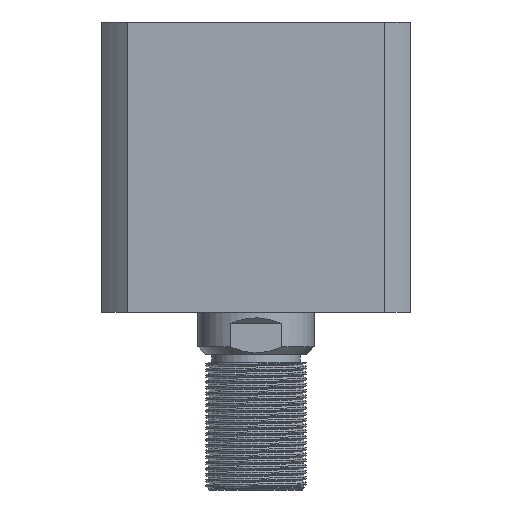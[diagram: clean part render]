
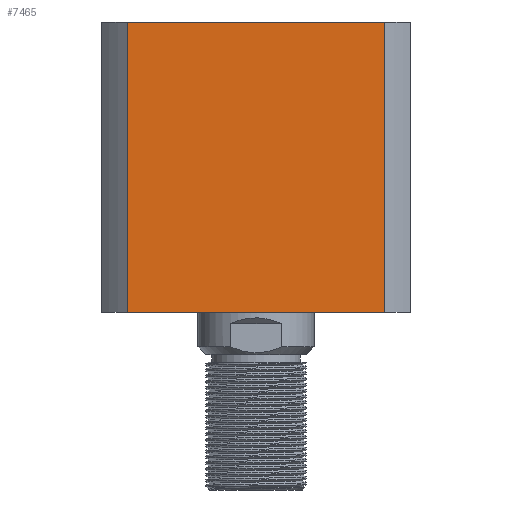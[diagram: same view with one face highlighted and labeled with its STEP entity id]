
A CAD part, left-side view. The second image highlights one B-rep face of the part: STEP entity #7465.
In plain terms, the highlighted planar face has unit normal (-1, 0, 0).
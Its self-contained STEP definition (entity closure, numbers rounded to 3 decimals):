
#743 = DIRECTION ( 'NONE',  ( 0., 0., -1. ) ) ;
#938 = CARTESIAN_POINT ( 'NONE',  ( -40., 33.226, -37.5 ) ) ;
#1242 = VERTEX_POINT ( 'NONE', #12098 ) ;
#1345 = VECTOR ( 'NONE', #11682, 1000. ) ;
#1518 = EDGE_LOOP ( 'NONE', ( #8845, #13874, #2862, #4040 ) ) ;
#1783 = DIRECTION ( 'NONE',  ( 0., -1., 0. ) ) ;
#2417 = VECTOR ( 'NONE', #16084, 1000. ) ;
#2666 = VECTOR ( 'NONE', #1783, 1000. ) ;
#2862 = ORIENTED_EDGE ( 'NONE', *, *, #8162, .F. ) ;
#3222 = VECTOR ( 'NONE', #743, 1000. ) ;
#4040 = ORIENTED_EDGE ( 'NONE', *, *, #11137, .T. ) ;
#6020 = CARTESIAN_POINT ( 'NONE',  ( -40., -33.226, 37.5 ) ) ;
#6180 = FACE_OUTER_BOUND ( 'NONE', #1518, .T. ) ;
#6708 = LINE ( 'NONE', #13413, #3222 ) ;
#7465 = ADVANCED_FACE ( 'NONE', ( #6180 ), #16900, .F. ) ;
#7566 = EDGE_CURVE ( 'NONE', #16074, #17038, #16331, .T. ) ;
#8162 = EDGE_CURVE ( 'NONE', #1242, #17863, #12431, .T. ) ;
#8377 = CARTESIAN_POINT ( 'NONE',  ( -40., 33.226, 37.5 ) ) ;
#8379 = AXIS2_PLACEMENT_3D ( 'NONE', #12791, #13077, #11490 ) ;
#8845 = ORIENTED_EDGE ( 'NONE', *, *, #7566, .T. ) ;
#11137 = EDGE_CURVE ( 'NONE', #1242, #16074, #11984, .T. ) ;
#11490 = DIRECTION ( 'NONE',  ( 0., 1., 0. ) ) ;
#11682 = DIRECTION ( 'NONE',  ( 0., -1., 0. ) ) ;
#11984 = LINE ( 'NONE', #14679, #2417 ) ;
#12098 = CARTESIAN_POINT ( 'NONE',  ( -40., 33.226, 37.5 ) ) ;
#12431 = LINE ( 'NONE', #8377, #1345 ) ;
#12791 = CARTESIAN_POINT ( 'NONE',  ( -40., 33.226, 37.5 ) ) ;
#13077 = DIRECTION ( 'NONE',  ( 1., 0., 0. ) ) ;
#13095 = CARTESIAN_POINT ( 'NONE',  ( -40., -33.226, -37.5 ) ) ;
#13413 = CARTESIAN_POINT ( 'NONE',  ( -40., -33.226, 37.5 ) ) ;
#13874 = ORIENTED_EDGE ( 'NONE', *, *, #16673, .F. ) ;
#14679 = CARTESIAN_POINT ( 'NONE',  ( -40., 33.226, 37.5 ) ) ;
#14824 = CARTESIAN_POINT ( 'NONE',  ( -40., 33.226, -37.5 ) ) ;
#16074 = VERTEX_POINT ( 'NONE', #938 ) ;
#16084 = DIRECTION ( 'NONE',  ( 0., 0., -1. ) ) ;
#16331 = LINE ( 'NONE', #14824, #2666 ) ;
#16673 = EDGE_CURVE ( 'NONE', #17863, #17038, #6708, .T. ) ;
#16900 = PLANE ( 'NONE',  #8379 ) ;
#17038 = VERTEX_POINT ( 'NONE', #13095 ) ;
#17863 = VERTEX_POINT ( 'NONE', #6020 ) ;
